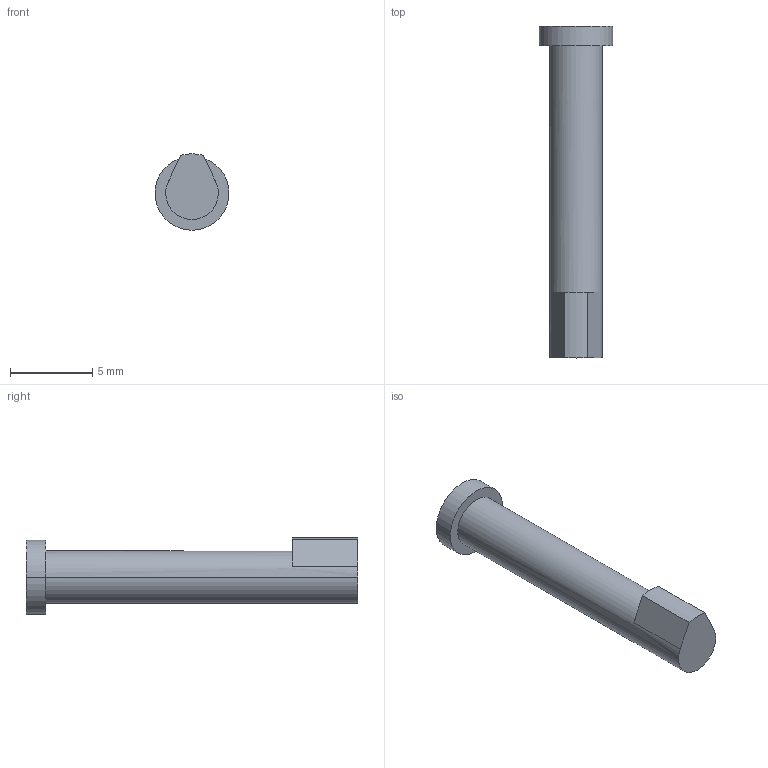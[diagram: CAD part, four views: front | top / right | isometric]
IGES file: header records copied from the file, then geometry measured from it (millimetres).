
Start section:  PTC IGES file: 64001221_button_reset_imx6_sbc.igs
Global section: file name: 64001221_button_reset_imx6_sbc.igs; native system: Creo Parametric by Parametric Technology Corporation; preprocessor: 2014090; author: mlarsen; organization: Unknown; date: 20150204.124603; units: millimetre
Bounding box: 4.5 x 20.2 x 4.65 mm (x, y, z)
Volume: 176.9 mm3; surface area: 248.6 mm2
Topology: 1 solids, 1 shells, 12 faces, 28 edges, 17 vertices
Faces by surface type: revolution 7, bspline 5
